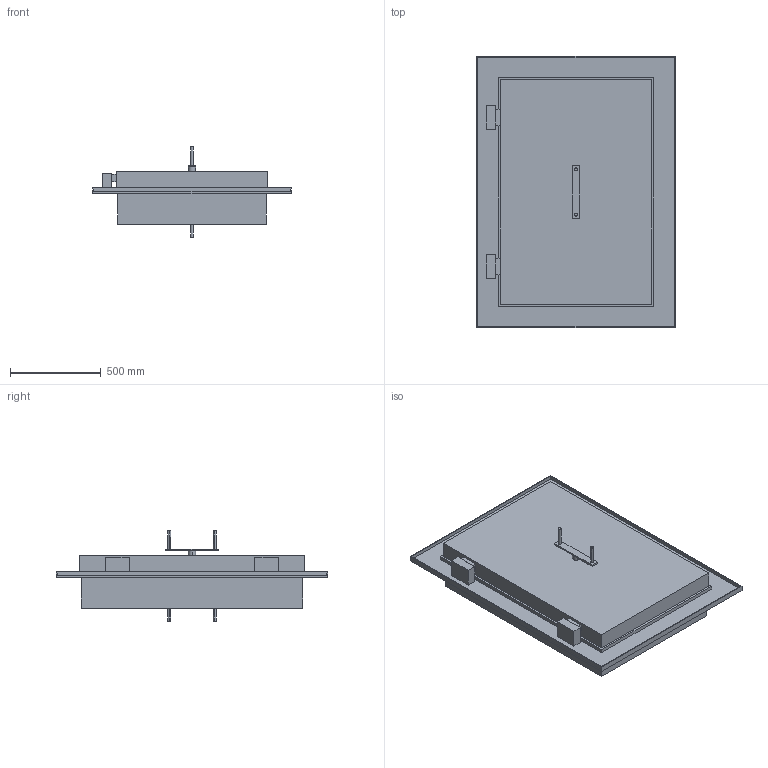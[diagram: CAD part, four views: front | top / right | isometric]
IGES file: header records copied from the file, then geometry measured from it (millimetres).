
Start section:  PTC IGES file: 51220609.igs
Global section: file name: 51220609.igs; native system: Creo Parametric by Parametric Technology Corporation; preprocessor: 2017170; author: gm; organization: Unknown; date: 20180515.082359; units: millimetre
Bounding box: 1090 x 1490 x 495 mm (x, y, z)
Surface area: 5617325.1 mm2 (no closed solid volume)
Topology: 0 solids, 0 shells, 79 faces, 368 edges, 368 vertices
Faces by surface type: bspline 67, revolution 12
